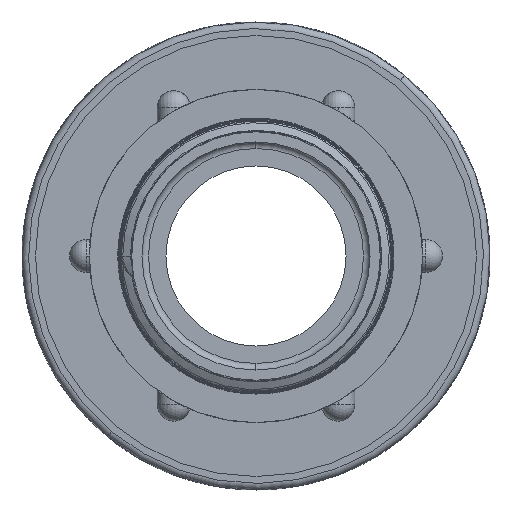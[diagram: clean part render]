
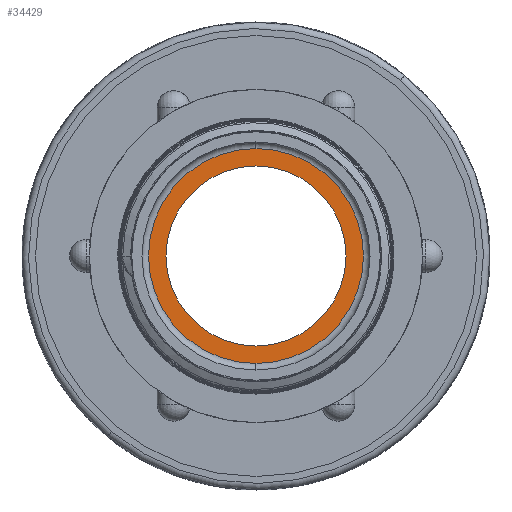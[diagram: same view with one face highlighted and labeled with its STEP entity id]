
A CAD part, left-side view. The second image highlights one B-rep face of the part: STEP entity #34429.
In plain terms, the highlighted planar face has unit normal (-1, 0, 0).
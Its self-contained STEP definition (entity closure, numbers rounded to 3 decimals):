
#996 = EDGE_CURVE ( 'NONE', #35684, #34469, #33256, .T. ) ;
#997 = EDGE_CURVE ( 'NONE', #32856, #35668, #33258, .T. ) ;
#9955 = ORIENTED_EDGE ( 'NONE', *, *, #996, .F. ) ;
#9956 = ORIENTED_EDGE ( 'NONE', *, *, #24684, .F. ) ;
#9957 = ORIENTED_EDGE ( 'NONE', *, *, #997, .T. ) ;
#9958 = ORIENTED_EDGE ( 'NONE', *, *, #24679, .T. ) ;
#11966 = AXIS2_PLACEMENT_3D ( 'NONE', #19989, #19997, #19998 ) ;
#12513 = CARTESIAN_POINT ( 'NONE',  ( 21., 0., 16.325 ) ) ;
#19989 = CARTESIAN_POINT ( 'NONE',  ( 21., 13.68, 0. ) ) ;
#19993 = FACE_BOUND ( 'NONE', #28244, .T. ) ;
#19994 = FACE_OUTER_BOUND ( 'NONE', #28233, .T. ) ;
#19995 = PLANE ( 'NONE',  #11966 ) ;
#19997 = DIRECTION ( 'NONE',  ( 1., 0., 0. ) ) ;
#19998 = DIRECTION ( 'NONE',  ( 0., 0., -1. ) ) ;
#20187 = CARTESIAN_POINT ( 'NONE',  ( 21., 0., -13.68 ) ) ;
#22370 = CARTESIAN_POINT ( 'NONE',  ( 21., 0., 0. ) ) ;
#22371 = DIRECTION ( 'NONE',  ( -1., 0., 0. ) ) ;
#22373 = DIRECTION ( 'NONE',  ( 0., 0., 1. ) ) ;
#22407 = CARTESIAN_POINT ( 'NONE',  ( 21., 0., 0. ) ) ;
#22409 = DIRECTION ( 'NONE',  ( -1., 0., 0. ) ) ;
#22410 = DIRECTION ( 'NONE',  ( 0., 0., 1. ) ) ;
#24679 = EDGE_CURVE ( 'NONE', #35668, #32856, #29005, .T. ) ;
#24684 = EDGE_CURVE ( 'NONE', #34469, #35684, #29002, .T. ) ;
#27446 = CARTESIAN_POINT ( 'NONE',  ( 21., 0., -16.325 ) ) ;
#27473 = CARTESIAN_POINT ( 'NONE',  ( 21., 0., 13.68 ) ) ;
#28233 = EDGE_LOOP ( 'NONE', ( #9957, #9958 ) ) ;
#28244 = EDGE_LOOP ( 'NONE', ( #9955, #9956 ) ) ;
#29002 = CIRCLE ( 'NONE', #29016, 13.68 ) ;
#29005 = CIRCLE ( 'NONE', #29007, 16.325 ) ;
#29007 = AXIS2_PLACEMENT_3D ( 'NONE', #22370, #22371, #22373 ) ;
#29016 = AXIS2_PLACEMENT_3D ( 'NONE', #22407, #22409, #22410 ) ;
#30039 = CARTESIAN_POINT ( 'NONE',  ( 21., 0., 0. ) ) ;
#30040 = DIRECTION ( 'NONE',  ( -1., 0., 0. ) ) ;
#30041 = DIRECTION ( 'NONE',  ( 0., 0., 1. ) ) ;
#30042 = CARTESIAN_POINT ( 'NONE',  ( 21., 0., 0. ) ) ;
#30043 = DIRECTION ( 'NONE',  ( -1., 0., 0. ) ) ;
#30044 = DIRECTION ( 'NONE',  ( 0., 0., 1. ) ) ;
#32856 = VERTEX_POINT ( 'NONE', #12513 ) ;
#33256 = CIRCLE ( 'NONE', #33261, 13.68 ) ;
#33258 = CIRCLE ( 'NONE', #33263, 16.325 ) ;
#33261 = AXIS2_PLACEMENT_3D ( 'NONE', #30039, #30040, #30041 ) ;
#33263 = AXIS2_PLACEMENT_3D ( 'NONE', #30042, #30043, #30044 ) ;
#34429 = ADVANCED_FACE ( 'NONE', ( #19993, #19994 ), #19995, .F. ) ;
#34469 = VERTEX_POINT ( 'NONE', #20187 ) ;
#35668 = VERTEX_POINT ( 'NONE', #27446 ) ;
#35684 = VERTEX_POINT ( 'NONE', #27473 ) ;
